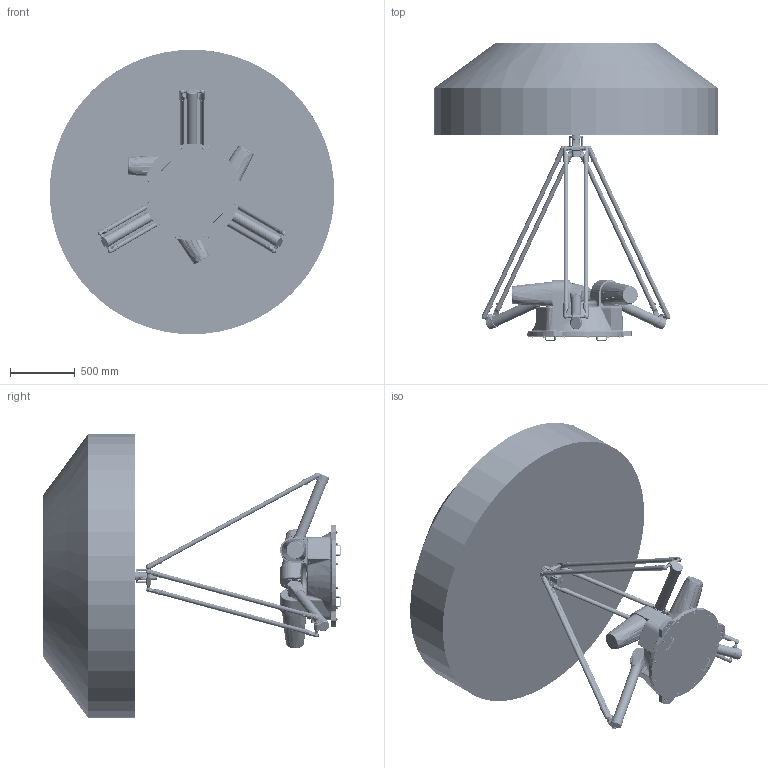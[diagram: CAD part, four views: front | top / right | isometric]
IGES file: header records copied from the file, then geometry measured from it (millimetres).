
Start section: SolidWorks IGES file using analytic representation for surfaces
Bounding box: 2199.86 x 2304 x 2199.86 mm (x, y, z)
Surface area: 17014612.9 mm2 (no closed solid volume)
Topology: 0 solids, 0 shells, 8939 faces, 126171 edges, 125746 vertices
Faces by surface type: bspline 5169, revolution 3770
